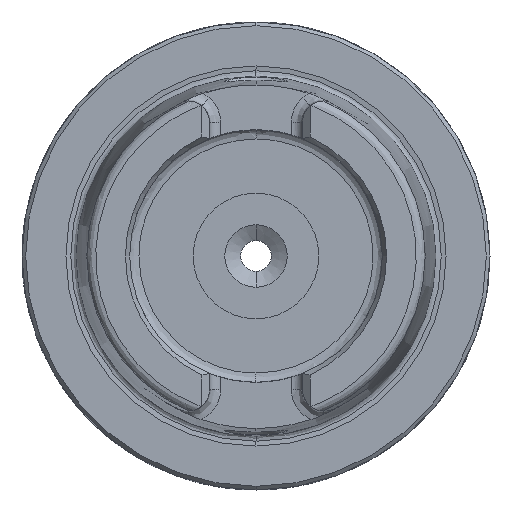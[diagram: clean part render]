
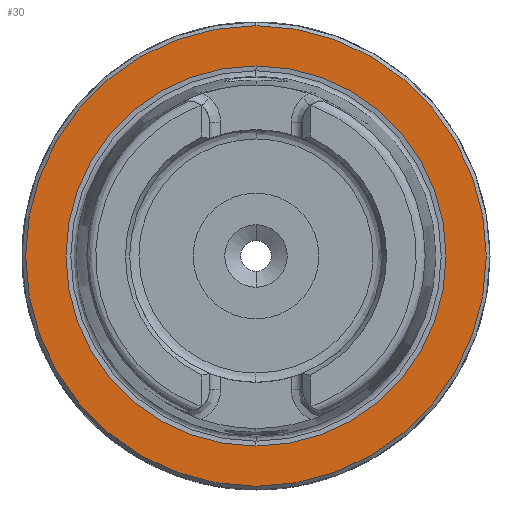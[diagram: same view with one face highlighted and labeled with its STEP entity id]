
A CAD part, left-side view. The second image highlights one B-rep face of the part: STEP entity #30.
In plain terms, the highlighted planar face has unit normal (-1, 0, 0).
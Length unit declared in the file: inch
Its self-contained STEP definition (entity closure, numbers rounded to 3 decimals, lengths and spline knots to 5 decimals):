
#30 = ADVANCED_FACE ( 'NONE', ( #4587, #7209 ), #1287, .T. ) ;
#454 = AXIS2_PLACEMENT_3D ( 'NONE', #5113, #7733, #7052 ) ;
#648 = DIRECTION ( 'NONE',  ( 0., 0., 1. ) ) ;
#1039 = CARTESIAN_POINT ( 'NONE',  ( 0., 0., 0. ) ) ;
#1065 = CIRCLE ( 'NONE', #7687, 1.0074 ) ;
#1287 = PLANE ( 'NONE',  #6934 ) ;
#1365 = EDGE_LOOP ( 'NONE', ( #2882, #3591 ) ) ;
#1463 = AXIS2_PLACEMENT_3D ( 'NONE', #3847, #5233, #7848 ) ;
#1496 = AXIS2_PLACEMENT_3D ( 'NONE', #7956, #6680, #6719 ) ;
#1521 = CARTESIAN_POINT ( 'NONE',  ( 0., 0., -1.22047 ) ) ;
#1653 = DIRECTION ( 'NONE',  ( 1., 0., 0. ) ) ;
#2500 = CARTESIAN_POINT ( 'NONE',  ( 0., 0., -1.0074 ) ) ;
#2801 = ORIENTED_EDGE ( 'NONE', *, *, #3865, .T. ) ;
#2882 = ORIENTED_EDGE ( 'NONE', *, *, #8466, .T. ) ;
#3591 = ORIENTED_EDGE ( 'NONE', *, *, #4557, .T. ) ;
#3821 = CIRCLE ( 'NONE', #1463, 1.22047 ) ;
#3847 = CARTESIAN_POINT ( 'NONE',  ( 0., 0., 0. ) ) ;
#3865 = EDGE_CURVE ( 'NONE', #4869, #6057, #5789, .T. ) ;
#3941 = CARTESIAN_POINT ( 'NONE',  ( 0., 1.22047, 0. ) ) ;
#4224 = VERTEX_POINT ( 'NONE', #1521 ) ;
#4557 = EDGE_CURVE ( 'NONE', #5873, #4224, #3821, .T. ) ;
#4587 = FACE_BOUND ( 'NONE', #8277, .T. ) ;
#4704 = CARTESIAN_POINT ( 'NONE',  ( 0., 0., 1.0074 ) ) ;
#4869 = VERTEX_POINT ( 'NONE', #4704 ) ;
#5113 = CARTESIAN_POINT ( 'NONE',  ( 0., 0., 0. ) ) ;
#5233 = DIRECTION ( 'NONE',  ( -1., 0., 0. ) ) ;
#5789 = CIRCLE ( 'NONE', #1496, 1.0074 ) ;
#5873 = VERTEX_POINT ( 'NONE', #6781 ) ;
#6057 = VERTEX_POINT ( 'NONE', #2500 ) ;
#6366 = DIRECTION ( 'NONE',  ( 0., 0., 1. ) ) ;
#6572 = DIRECTION ( 'NONE',  ( -1., 0., 0. ) ) ;
#6642 = EDGE_CURVE ( 'NONE', #6057, #4869, #1065, .T. ) ;
#6680 = DIRECTION ( 'NONE',  ( 1., 0., 0. ) ) ;
#6719 = DIRECTION ( 'NONE',  ( 0., 0., 1. ) ) ;
#6781 = CARTESIAN_POINT ( 'NONE',  ( 0., 0., 1.22047 ) ) ;
#6934 = AXIS2_PLACEMENT_3D ( 'NONE', #3941, #6572, #648 ) ;
#7052 = DIRECTION ( 'NONE',  ( 0., 0., -1. ) ) ;
#7209 = FACE_OUTER_BOUND ( 'NONE', #1365, .T. ) ;
#7610 = CIRCLE ( 'NONE', #454, 1.22047 ) ;
#7670 = ORIENTED_EDGE ( 'NONE', *, *, #6642, .T. ) ;
#7687 = AXIS2_PLACEMENT_3D ( 'NONE', #1039, #1653, #6366 ) ;
#7733 = DIRECTION ( 'NONE',  ( -1., 0., 0. ) ) ;
#7848 = DIRECTION ( 'NONE',  ( 0., 0., -1. ) ) ;
#7956 = CARTESIAN_POINT ( 'NONE',  ( 0., 0., 0. ) ) ;
#8277 = EDGE_LOOP ( 'NONE', ( #2801, #7670 ) ) ;
#8466 = EDGE_CURVE ( 'NONE', #4224, #5873, #7610, .T. ) ;
